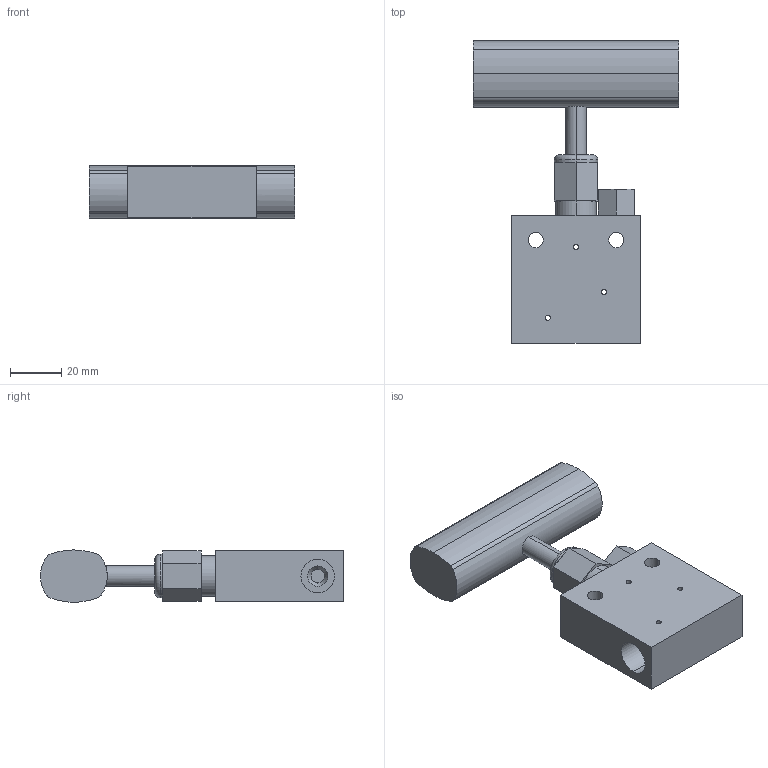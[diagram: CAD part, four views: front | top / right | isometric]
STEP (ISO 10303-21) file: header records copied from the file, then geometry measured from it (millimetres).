
FILE_DESCRIPTION (( 'STEP AP203' ), '1' );
FILE_NAME ('NV20VS06-S.STEP', '2020-12-23T11:43:32', ( '' ), ( '' ), 'SwSTEP 2.0', 'SolidWorks 2018', '' );
FILE_SCHEMA (( 'CONFIG_CONTROL_DESIGN' ));
Length unit declared in the file: millimetre
Products named in the file (1): NV20VS06-S
Bounding box: 80 x 118.05 x 20.33 mm (x, y, z)
Volume: 88134.1 mm3; surface area: 20698.7 mm2
Topology: 1 solids, 1 shells, 83 faces, 205 edges, 130 vertices
Faces by surface type: cylinder 41, plane 36, cone 4, torus 2
Entity records: 2836 total; most frequent: CARTESIAN_POINT 709, DIRECTION 445, ORIENTED_EDGE 410, EDGE_CURVE 205, AXIS2_PLACEMENT_3D 170, VERTEX_POINT 130, LINE 105, EDGE_LOOP 105
